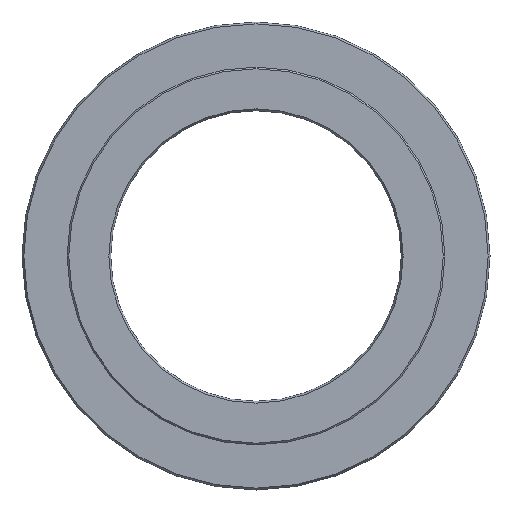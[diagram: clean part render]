
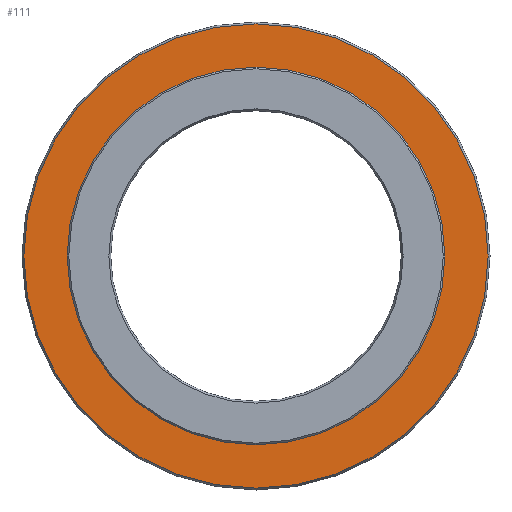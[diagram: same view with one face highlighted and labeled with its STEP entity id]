
A CAD part, left-side view. The second image highlights one B-rep face of the part: STEP entity #111.
In plain terms, the highlighted planar face has unit normal (-1, 0, 0).
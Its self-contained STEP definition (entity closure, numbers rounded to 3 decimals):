
#97=PLANE('',#323);
#111=ADVANCED_FACE('',(#144,#145),#97,.T.);
#144=FACE_BOUND('',#175,.T.);
#145=FACE_BOUND('',#176,.T.);
#175=EDGE_LOOP('',(#214));
#176=EDGE_LOOP('',(#215));
#214=ORIENTED_EDGE('',*,*,#279,.T.);
#215=ORIENTED_EDGE('',*,*,#280,.T.);
#258=VERTEX_POINT('',#465);
#259=VERTEX_POINT('',#467);
#279=EDGE_CURVE('',#258,#258,#298,.T.);
#280=EDGE_CURVE('',#259,#259,#299,.T.);
#298=CIRCLE('',#321,71.923);
#299=CIRCLE('',#322,58.5);
#321=AXIS2_PLACEMENT_3D('',#464,#369,#370);
#322=AXIS2_PLACEMENT_3D('',#466,#371,#372);
#323=AXIS2_PLACEMENT_3D('',#468,#373,#374);
#369=DIRECTION('',(-1.,0.,0.));
#370=DIRECTION('',(0.,0.,1.));
#371=DIRECTION('',(1.,0.,0.));
#372=DIRECTION('',(0.,0.,-1.));
#373=DIRECTION('',(-1.,0.,0.));
#374=DIRECTION('',(0.,0.,1.));
#464=CARTESIAN_POINT('',(0.,0.,0.));
#465=CARTESIAN_POINT('',(0.,0.,71.923));
#466=CARTESIAN_POINT('',(0.,0.,0.));
#467=CARTESIAN_POINT('',(0.,0.,-58.5));
#468=CARTESIAN_POINT('',(0.,72.5,0.));
